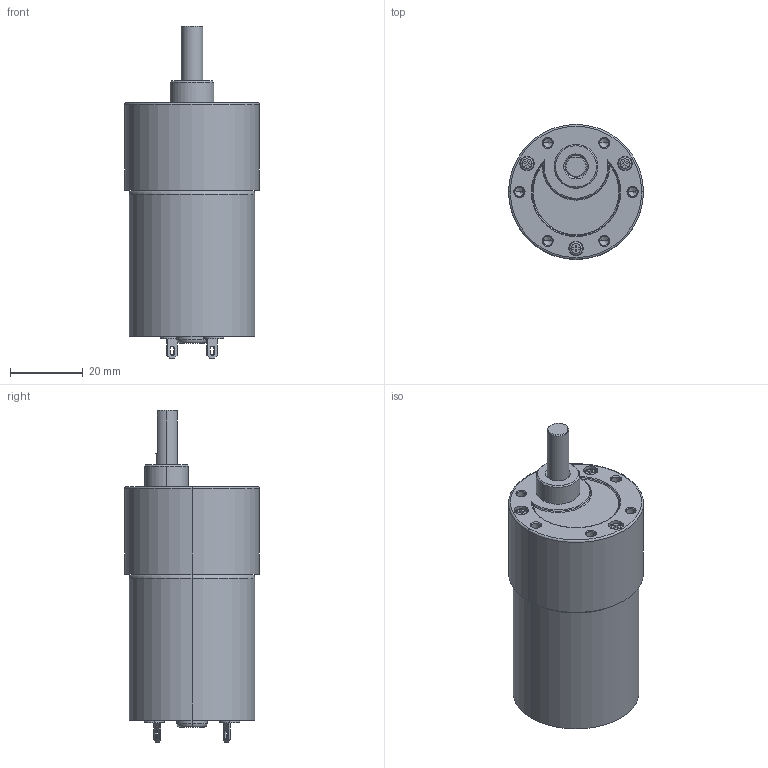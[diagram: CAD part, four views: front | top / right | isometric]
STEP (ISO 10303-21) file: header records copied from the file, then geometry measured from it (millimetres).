
FILE_DESCRIPTION (( 'STEP AP214' ), '1' );
FILE_NAME ('BDSG-37-40-R50.STEP', '2010-06-25T15:49:25', ( 'Tim Raines' ), ( 'Anaheim Automation' ), 'SwSTEP 2.0', 'SolidWorks 2010', '' );
FILE_SCHEMA (( 'AUTOMOTIVE_DESIGN' ));
Length unit declared in the file: millimetre
Products named in the file (1): BDSG-37-40-R50
Bounding box: 37 x 37 x 91 mm (x, y, z)
Volume: 63314.7 mm3; surface area: 11048 mm2
Topology: 1 solids, 1 shells, 180 faces, 423 edges, 260 vertices
Faces by surface type: plane 77, cylinder 48, cone 31, torus 24
Entity records: 7118 total; most frequent: DIRECTION 934, CARTESIAN_POINT 894, ORIENTED_EDGE 822, EDGE_CURVE 411, AXIS2_PLACEMENT_3D 348, VERTEX_POINT 260, VECTOR 238, LINE 238
